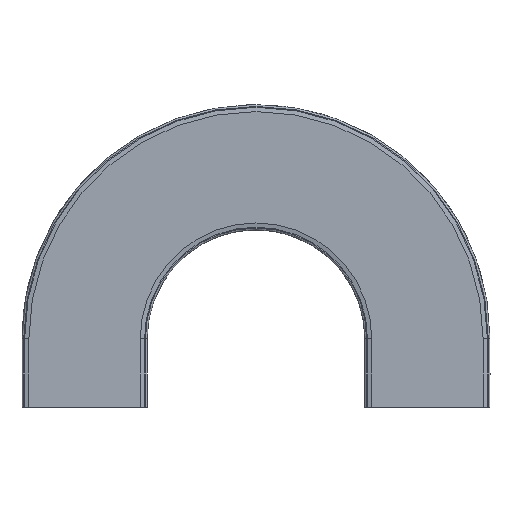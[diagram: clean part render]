
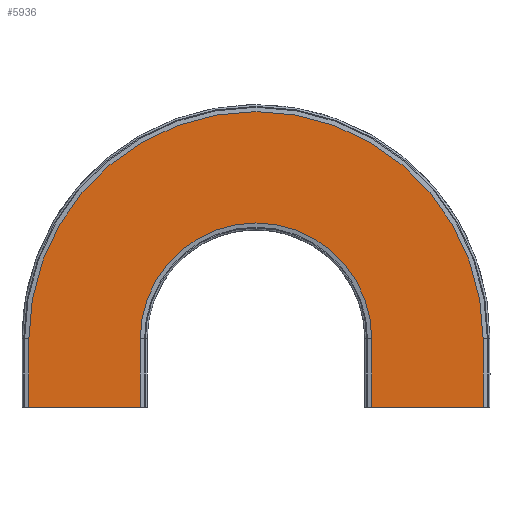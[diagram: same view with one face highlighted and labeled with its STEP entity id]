
A CAD part, front view. The second image highlights one B-rep face of the part: STEP entity #5936.
In plain terms, the highlighted planar face has unit normal (0, -1, 0).
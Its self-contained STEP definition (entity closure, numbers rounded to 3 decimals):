
#5693=CARTESIAN_POINT('',(104.,-74.,0.0));
#5694=VERTEX_POINT('',#5693);
#5701=CARTESIAN_POINT('',(-26.,-74.,0.0));
#5702=VERTEX_POINT('',#5701);
#5703=CARTESIAN_POINT('',(-26.,-74.,0.0));
#5704=DIRECTION('',(1.0,0.0,0.0));
#5705=VECTOR('',#5704,130.);
#5706=LINE('',#5703,#5705);
#5707=EDGE_CURVE('',#5702,#5694,#5706,.T.);
#5762=CARTESIAN_POINT('',(-26.,-74.,80.0));
#5763=VERTEX_POINT('',#5762);
#5772=CARTESIAN_POINT('',(-26.,-74.,0.0));
#5773=DIRECTION('',(0.0,0.0,1.0));
#5774=VECTOR('',#5773,80.0);
#5775=LINE('',#5772,#5774);
#5776=EDGE_CURVE('',#5702,#5763,#5775,.T.);
#5786=CARTESIAN_POINT('',(104.,-74.,80.0));
#5787=VERTEX_POINT('',#5786);
#5796=CARTESIAN_POINT('',(104.,-74.,0.0));
#5797=DIRECTION('',(0.0,0.0,1.0));
#5798=VECTOR('',#5797,80.0);
#5799=LINE('',#5796,#5798);
#5800=EDGE_CURVE('',#5694,#5787,#5799,.T.);
#5819=CARTESIAN_POINT('',(-296.,-74.,80.0));
#5820=VERTEX_POINT('',#5819);
#5835=CARTESIAN_POINT('',(-161.,-74.,80.0));
#5836=DIRECTION('',(0.0,-1.0,0.0));
#5837=DIRECTION('',(1.0,0.0,0.0));
#5838=AXIS2_PLACEMENT_3D('',#5835,#5836,#5837);
#5839=CIRCLE('',#5838,135.);
#5840=EDGE_CURVE('',#5763,#5820,#5839,.T.);
#5894=CARTESIAN_POINT('',(-426.,-74.,788.319));
#5895=DIRECTION('',(0.0,-1.0,0.0));
#5896=DIRECTION('',(0.0,0.0,1.0));
#5897=AXIS2_PLACEMENT_3D('',#5894,#5895,#5896);
#5898=PLANE('',#5897);
#5899=CARTESIAN_POINT('',(-426.,-74.,0.));
#5900=VERTEX_POINT('',#5899);
#5901=CARTESIAN_POINT('',(-296.,-74.,0.));
#5902=VERTEX_POINT('',#5901);
#5903=CARTESIAN_POINT('',(-426.,-74.,0.));
#5904=DIRECTION('',(1.0,0.0,0.0));
#5905=VECTOR('',#5904,130.0);
#5906=LINE('',#5903,#5905);
#5907=EDGE_CURVE('',#5900,#5902,#5906,.T.);
#5908=ORIENTED_EDGE('',*,*,#5907,.T.);
#5909=CARTESIAN_POINT('',(-296.,-74.,80.0));
#5910=DIRECTION('',(0.0,0.0,-1.0));
#5911=VECTOR('',#5910,80.0);
#5912=LINE('',#5909,#5911);
#5913=EDGE_CURVE('',#5820,#5902,#5912,.T.);
#5914=ORIENTED_EDGE('',*,*,#5913,.F.);
#5915=ORIENTED_EDGE('',*,*,#5840,.F.);
#5916=ORIENTED_EDGE('',*,*,#5776,.F.);
#5917=ORIENTED_EDGE('',*,*,#5707,.T.);
#5918=ORIENTED_EDGE('',*,*,#5800,.T.);
#5919=CARTESIAN_POINT('',(-426.,-74.,80.0));
#5920=VERTEX_POINT('',#5919);
#5921=CARTESIAN_POINT('',(-161.,-74.,80.0));
#5922=DIRECTION('',(0.0,-1.0,0.0));
#5923=DIRECTION('',(1.0,0.0,0.0));
#5924=AXIS2_PLACEMENT_3D('',#5921,#5922,#5923);
#5925=CIRCLE('',#5924,265.);
#5926=EDGE_CURVE('',#5787,#5920,#5925,.T.);
#5927=ORIENTED_EDGE('',*,*,#5926,.T.);
#5928=CARTESIAN_POINT('',(-426.,-74.,80.0));
#5929=DIRECTION('',(0.0,0.0,-1.0));
#5930=VECTOR('',#5929,80.);
#5931=LINE('',#5928,#5930);
#5932=EDGE_CURVE('',#5920,#5900,#5931,.T.);
#5933=ORIENTED_EDGE('',*,*,#5932,.T.);
#5934=EDGE_LOOP('',(#5908,#5914,#5915,#5916,#5917,#5918,#5927,#5933));
#5935=FACE_OUTER_BOUND('',#5934,.T.);
#5936=ADVANCED_FACE('',(#5935),#5898,.T.);
